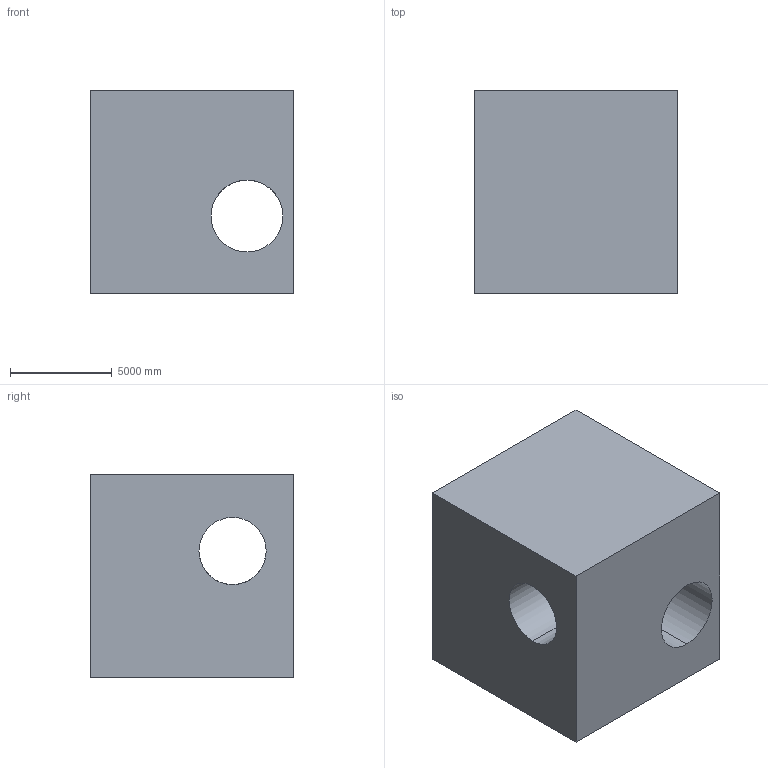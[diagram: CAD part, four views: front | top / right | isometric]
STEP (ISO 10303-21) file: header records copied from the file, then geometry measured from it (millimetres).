
FILE_DESCRIPTION (( 'STEP AP203' ), '1' );
FILE_NAME ('104.STEP', '2022-07-28T13:37:31', ( 'user' ), ( '' ), 'SwSTEP 2.0', 'SolidWorks 2021', '' );
FILE_SCHEMA (( 'CONFIG_CONTROL_DESIGN' ));
Length unit declared in the file: centimetre
Products named in the file (1): 104
Bounding box: 10000 x 10000 x 10000 mm (x, y, z)
Volume: 821145141604 mm3; surface area: 758057451.6 mm2
Topology: 1 solids, 1 shells, 10 faces, 30 edges, 20 vertices
Faces by surface type: plane 6, cylinder 4
Entity records: 806 total; most frequent: CARTESIAN_POINT 444, ORIENTED_EDGE 60, DIRECTION 56, EDGE_CURVE 30, VERTEX_POINT 20, AXIS2_PLACEMENT_3D 19, VECTOR 18, LINE 18
